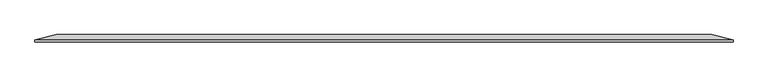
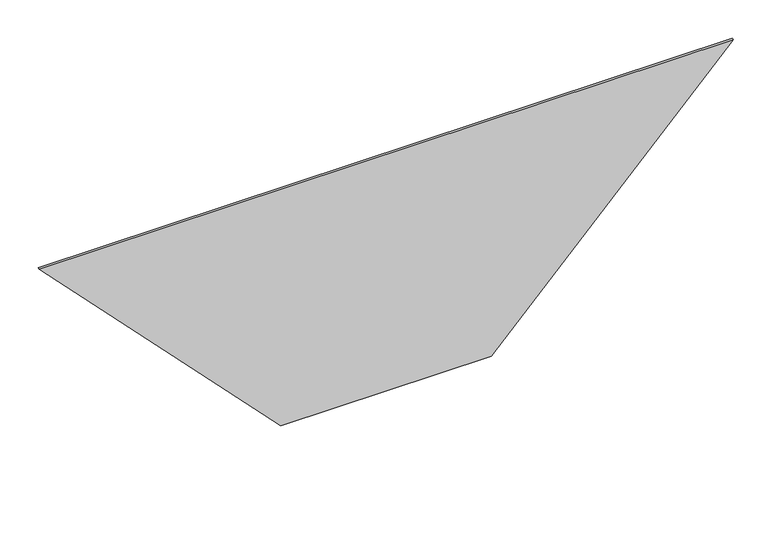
"""IFC4 building model written with IfcOpenShell, lengths in millimetres: proxy geometry, AERO^TABLE 3_ATS2S-4896-REV2-NOPOWER^ SHRD END04."""

from ifc_helpers import new_model, si_unit, origin, place, context, project, spatial, faceted_brep, source, transform, mapped, element, save


def generic_models_695e2661(model_context):
    return source(origin(), model_context, "Body", "Brep", [
        faceted_brep([(422.4266508, 12.7, -434.7470453), (422.4266508, 0.0, -438.15), (0.0, 0.0, -0.8217505), (0.0, 3.0668145, 0.0), (37.2197707, 12.7, -35.9515377), (790.4233492, 0.0, -438.15), (1212.85, 0.0, -0.8217505), (1212.85, 3.0668145, 0.0), (790.4233492, 12.7, -434.7470453), (1175.6302293, 12.7, -35.9515377)], [[[0, 1, 2, 3, 4]], [[2, 1, 5, 6]], [[7, 6, 5, 8, 9]], [[1, 0, 8, 5]], [[0, 4, 9, 8]], [[3, 2, 6, 7]], [[4, 3, 7, 9]]]),
    ])


if __name__ == "__main__":
    model = new_model("IFC4")
    model_context = context("Model", 3, world=origin())
    ifc_project = project(units=[si_unit("LENGTHUNIT", "METRE", prefix="MILLI")], contexts=[model_context])
    site = spatial("IfcSite", under=ifc_project)
    building = spatial("IfcBuilding", under=site)
    placement = place(None, origin())
    generic_models_shape = generic_models_695e2661(model_context)
    element("IfcBuildingElementProxy", 1, Name="AERO^TABLE 3_ATS2S-4896-REV2-NOPOWER^ SHRD END04", ObjectType="AERO^TABLE 3_ATS2S-4896-REV2-NOPOWER^ SHRD END04", at=placement, inside=building, context=model_context, shape_type="MappedRepresentation", body=[
        mapped(generic_models_shape, transform((0.0, 0.0, 0.0), x_axis=(1.0, 0.0, 0.0), y_axis=(0.0, 1.0, 0.0), z_axis=(0.0, 0.0, 1.0))),
    ])
    save(model, "model.ifc")
